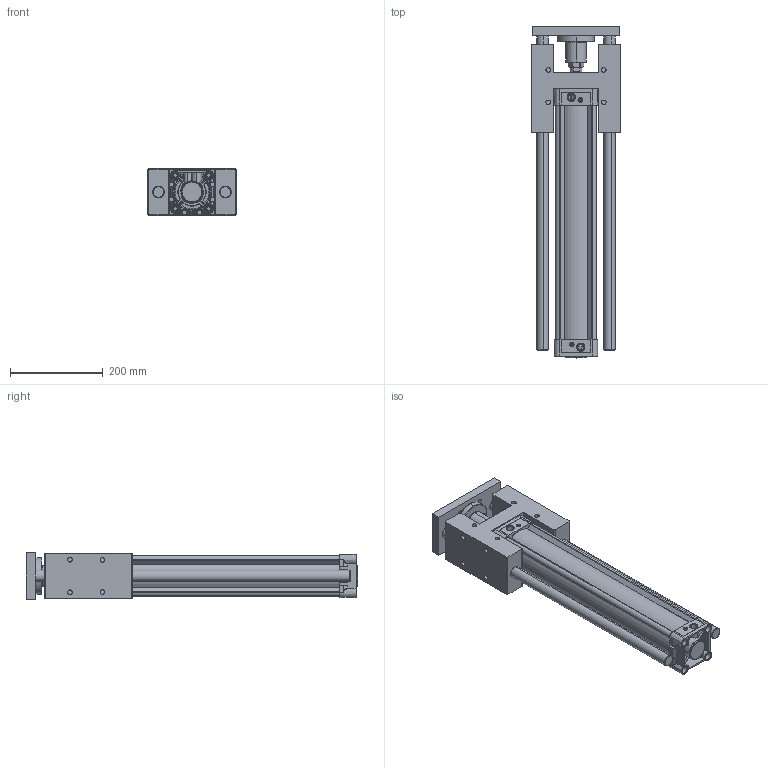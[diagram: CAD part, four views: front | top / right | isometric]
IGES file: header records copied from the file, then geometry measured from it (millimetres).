
Start section: SolidWorks IGES file using analytic representation for surfaces
Global section: file name: D:\ARICA 3D 禽Z軲LER\3D IGES\DNC-H\MDNC\80\MDNC80X450H-YATAK.IGS,1; native system: 5HSolidWorks 2013; preprocessor: SolidWorks 2013; author: user; date: 160520.173023; units: millimetre
Bounding box: 191 x 716.9 x 100.5 mm (x, y, z)
Surface area: 1002185.7 mm2 (no closed solid volume)
Topology: 0 solids, 0 shells, 1193 faces, 20524 edges, 20514 vertices
Faces by surface type: revolution 744, bspline 449
